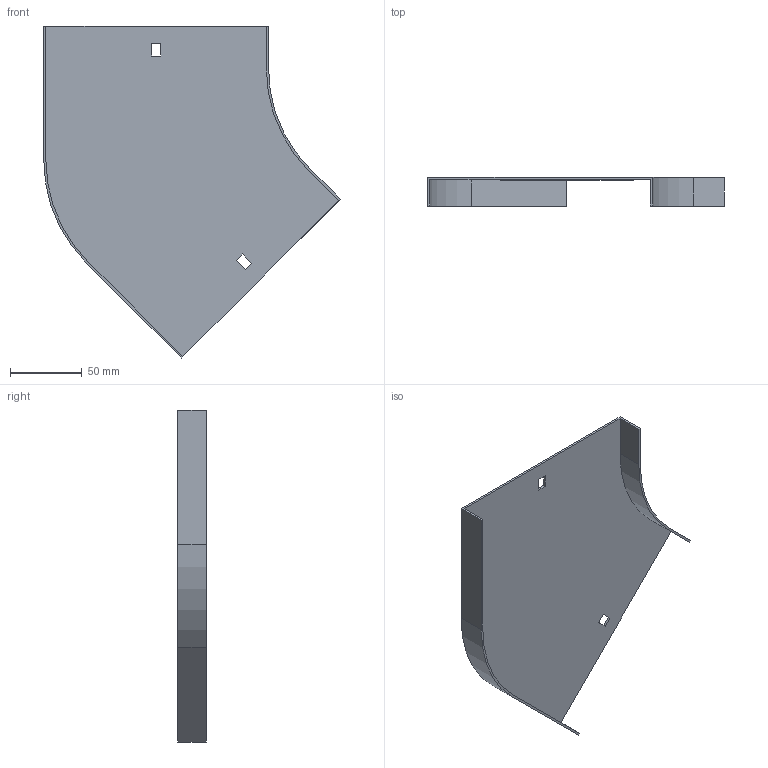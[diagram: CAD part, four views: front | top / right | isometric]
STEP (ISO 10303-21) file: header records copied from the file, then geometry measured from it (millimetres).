
FILE_DESCRIPTION (( 'STEP AP214' ), '1' );
FILE_NAME ('11G1P150.step', '2025-02-21T12:45:53', ( '' ), ( '' ), 'SwSTEP 2.0', 'SolidWorks 2023', '' );
FILE_SCHEMA (( 'AUTOMOTIVE_DESIGN' ));
Length unit declared in the file: millimetre
Products named in the file (1): 11G1P150
Bounding box: 207.06 x 20 x 231.88 mm (x, y, z)
Volume: 59696.1 mm3; surface area: 80876.8 mm2
Topology: 1 solids, 1 shells, 26 faces, 72 edges, 48 vertices
Faces by surface type: plane 22, cylinder 4
Entity records: 855 total; most frequent: CARTESIAN_POINT 147, ORIENTED_EDGE 144, DIRECTION 134, EDGE_CURVE 72, LINE 64, VECTOR 64, VERTEX_POINT 48, AXIS2_PLACEMENT_3D 35
